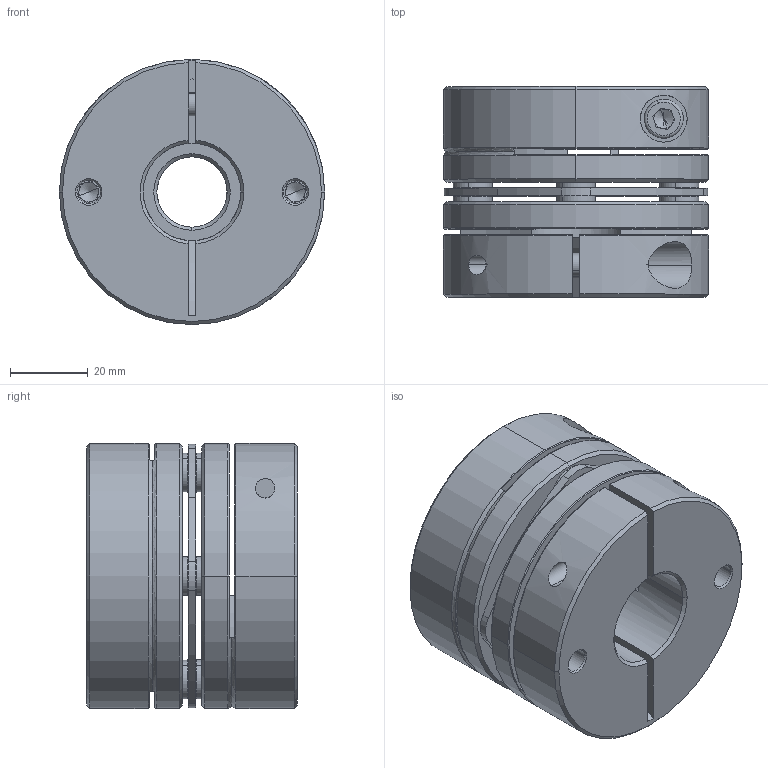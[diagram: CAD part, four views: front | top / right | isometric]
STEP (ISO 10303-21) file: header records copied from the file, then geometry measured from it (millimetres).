
FILE_DESCRIPTION (( 'STEP AP203' ), '1' );
FILE_NAME ('LD1-D68-18-25.STEP', '2021-10-26T07:53:30', ( '' ), ( '' ), 'SwSTEP 2.0', 'SolidWorks 2018', '' );
FILE_SCHEMA (( 'CONFIG_CONTROL_DESIGN' ));
Length unit declared in the file: millimetre
Products named in the file (2): LD1-D68-18-25; 錨璃101^LD1-D68
Assembly tree (1 placements, depth 2):
  LD1-D68-18-25
    錨璃101^LD1-D68
Bounding box: 68 x 54 x 68 mm (x, y, z)
Volume: 148344.6 mm3; surface area: 46614.3 mm2
Topology: 1 solids, 15 shells, 445 faces, 1059 edges, 650 vertices
Faces by surface type: cylinder 163, plane 138, cone 122, torus 22
Entity records: 13459 total; most frequent: CARTESIAN_POINT 2611, DIRECTION 2433, ORIENTED_EDGE 2086, EDGE_CURVE 1043, AXIS2_PLACEMENT_3D 988, VERTEX_POINT 650, CIRCLE 539, EDGE_LOOP 525
